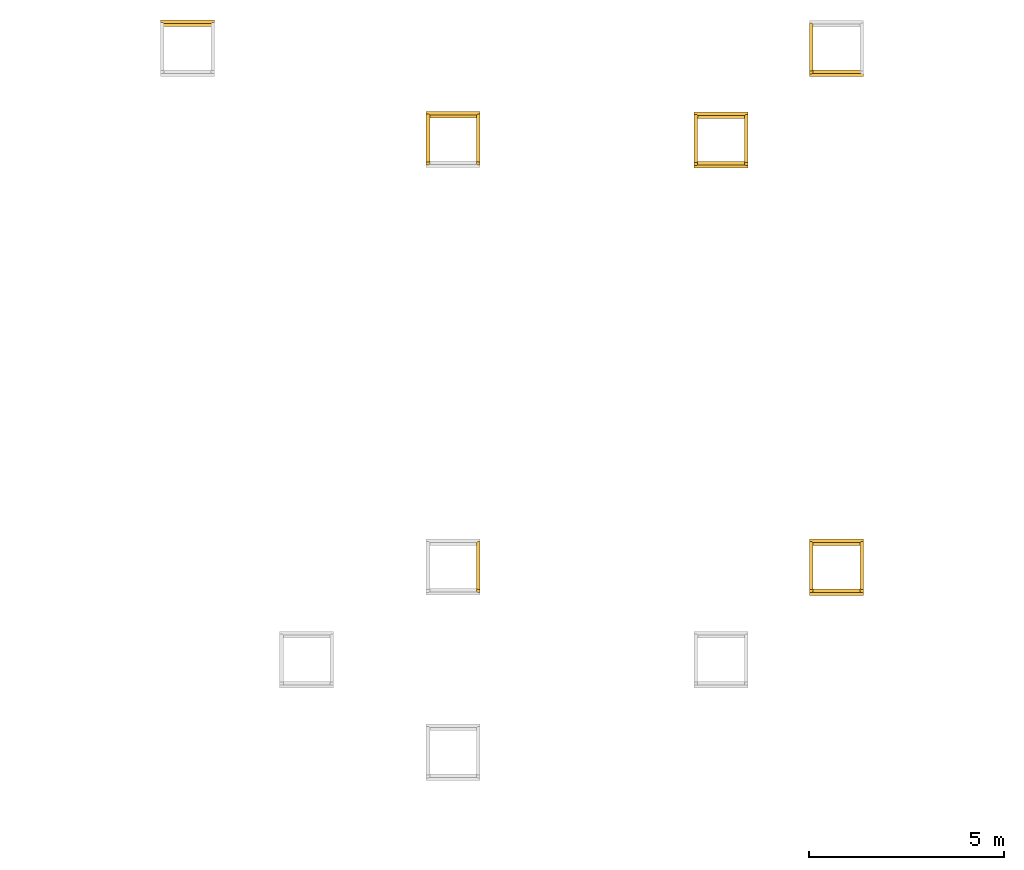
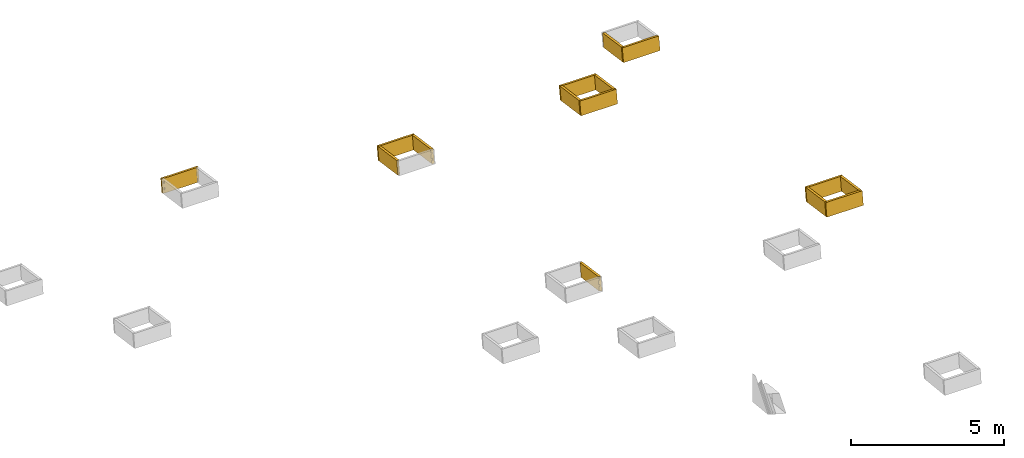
# One storey, part 21 of 23: 15 coverings.
"""IFC2X3 building model written with IfcOpenShell, lengths in millimetres."""

from ifc_helpers import new_model, entity, si_unit, converted_unit, derived_unit, money_unit, direction, frame, origin_with_axes, place, context, subcontext, project, spatial, faceted_brep, material, material_list, type_object, element, save


model = new_model("IFC2X3")

# Units and contexts
model_context = context("Model", 3, precision=0.01, world=origin_with_axes(), true_north=direction((0.0, 1.0)))
body_context = subcontext(model_context, "Body", "Model", "MODEL_VIEW")
ifc_project = project(units=[si_unit("LENGTHUNIT", "METRE", prefix="MILLI"), si_unit("AREAUNIT", "SQUARE_METRE"), si_unit("VOLUMEUNIT", "CUBIC_METRE"), converted_unit("PLANEANGLEUNIT", "DEGREE", entity("IfcPlaneAngleMeasure", 0.0174532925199), si_unit("PLANEANGLEUNIT", "RADIAN"), dimensions=[0, 0, 0, 0, 0, 0, 0]), si_unit("SOLIDANGLEUNIT", "STERADIAN"), money_unit("EUR"), converted_unit("TIMEUNIT", "Year", entity("IfcTimeMeasure", 31556926.0), si_unit("TIMEUNIT", "SECOND"), dimensions=[0, 0, 1, 0, 0, 0, 0]), si_unit("MASSUNIT", "GRAM", prefix="KILO"), si_unit("THERMODYNAMICTEMPERATUREUNIT", "DEGREE_CELSIUS"), si_unit("LUMINOUSINTENSITYUNIT", "LUMEN"), si_unit("ENERGYUNIT", "JOULE", prefix="MEGA"), derived_unit("THERMALCONDUCTANCEUNIT", [(si_unit("POWERUNIT", "WATT"), 1), (si_unit("LENGTHUNIT", "METRE"), -1), (si_unit("THERMODYNAMICTEMPERATUREUNIT", "KELVIN"), -1)]), derived_unit("SPECIFICHEATCAPACITYUNIT", [(si_unit("ENERGYUNIT", "JOULE"), 1), (si_unit("MASSUNIT", "GRAM", prefix="KILO"), -1), (si_unit("THERMODYNAMICTEMPERATUREUNIT", "KELVIN"), -1)]), derived_unit("MASSDENSITYUNIT", [(si_unit("MASSUNIT", "GRAM", prefix="KILO"), 1), (si_unit("VOLUMEUNIT", "CUBIC_METRE"), -1)])], contexts=[model_context])

# Site, building, storey
site_placement = place(None, origin_with_axes())
site = spatial("IfcSite", under=ifc_project, at=site_placement, Name="L.Koidula tn 11b", CompositionType="ELEMENT")
building_placement = place(site_placement, origin_with_axes())
building = spatial("IfcBuilding", under=site, at=building_placement, Name="Rakvere Riigigümnaasium", CompositionType="ELEMENT")
storey_placement = place(building_placement, frame((0.0, 0.0, 7440.0), z_axis=(0.0, 0.0, 1.0), x_axis=(1.0, 0.0, 0.0)))
storey = spatial("IfcBuildingStorey", under=building, at=storey_placement, Name="3.korrus +7,44", CompositionType="ELEMENT", Elevation=7440.0)

# Coverings
ifc_material_1 = material(Name="mineraalvill+karkass")
ifc_material_2 = material(Name="SKR-02_Kipsplaat")
ifc_material_list_1 = material_list([ifc_material_1, ifc_material_2, ifc_material_2])
covering_type = type_object("IfcCoveringType", Name="SA-2xkips 91", PredefinedType="NOTDEFINED")
covering_1_placement = place(storey_placement, frame((34754.7805384, 55277.5534586, -1647.43946758), z_axis=(0.0, 0.0, 1.0), x_axis=(-0.000143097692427, -0.999999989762, 0.0)))
element("IfcCovering", 1, at=covering_1_placement, inside=storey, type_object=covering_type, material=ifc_material_list_1, Name="Ava-pinnakate", PredefinedType="NOTDEFINED", context=body_context, shape_type="Brep", body=[
    faceted_brep([(1204.27400504, 91.0, 305.031960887), (-32.7913839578, 91.0, 128.971485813), (-110.013596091, 91.0, 671.563023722), (1127.05179291, 91.0, 847.623498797), (-32.7819395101, 25.000000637, 128.971485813), (1204.28344949, 25.0000004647, 305.031960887), (-110.004151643, 25.0000004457, 671.563023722), (1127.06123735, 25.0000000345, 847.623498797)], [[[0, 1, 2, 3]], [[4, 1, 0, 5]], [[1, 4, 6, 2]], [[7, 3, 2, 6]], [[5, 0, 3, 7]], [[4, 5, 7, 6]]]),
    faceted_brep([(1191.90815364, 25.0000004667, 303.270695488), (-20.406643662, 25.0000006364, 130.732751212), (-97.6288557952, 25.0000004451, 673.324289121), (1114.68594151, 25.0000000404, 845.862233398), (-20.4048549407, 12.5, 130.732751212), (1191.90994236, 12.5, 303.270695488), (-97.6270670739, 12.5, 673.324289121), (1114.68773023, 12.5, 845.862233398)], [[[0, 1, 2, 3]], [[4, 1, 0, 5]], [[1, 4, 6, 2]], [[7, 3, 2, 6]], [[5, 0, 3, 7]], [[4, 5, 7, 6]]]),
    faceted_brep([(1179.5361547, 12.5, 301.509644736), (-8.02796170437, 12.5, 132.494243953), (-85.2516732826, 12.5, 675.08556846), (1102.31247907, 12.5, 844.100974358), (-8.02777037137, 0.0, 132.494016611), (1179.53643523, 0.0, 301.509430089), (-85.2499825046, 0.0, 675.085554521), (1102.3142231, 0.0, 844.100967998)], [[[0, 1, 2, 3]], [[4, 1, 0, 5]], [[1, 4, 6, 2]], [[7, 3, 2, 6]], [[5, 0, 3, 7]], [[4, 5, 7, 6]]]),
])
ifc_material_list_2 = material_list([ifc_material_2, ifc_material_2, ifc_material_1])
covering_2_placement = place(storey_placement, frame((44599.9999078, 55276.54552, -1571.2099855), z_axis=(0.0, 0.0, 1.0), x_axis=(-1.0, 0.0, 0.0)))
element("IfcCovering", 2, at=covering_2_placement, inside=storey, type_object=covering_type, material=ifc_material_list_2, Name="Ava-pinnakate", PredefinedType="NOTDEFINED", context=body_context, shape_type="Brep", body=[
    faceted_brep([(-12.5011489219, -8.02803970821, 56.4079470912), (-12.5029197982, -20.4033354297, 54.646681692), (-12.5139701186, -97.6255467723, 597.238219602), (-12.5121992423, -85.2502510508, 598.999485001), (1212.49706641, -20.4033354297, 54.646681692), (1212.49885411, -8.02803970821, 56.4079470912), (1212.48591112, -97.6255467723, 597.238219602), (1212.48769882, -85.2502510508, 598.999485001)], [[[0, 1, 2, 3]], [[4, 1, 0, 5]], [[1, 4, 6, 2]], [[7, 3, 2, 6]], [[5, 0, 3, 7]], [[4, 5, 7, 6]]]),
    faceted_brep([(-25.0029199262, -20.4033354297, 54.646681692), (-25.0046908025, -32.7786311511, 52.8854162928), (-25.0157411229, -110.000842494, 595.476954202), (-25.0139702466, -97.6255467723, 597.238219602), (1224.99527884, -32.7786311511, 52.8854162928), (1224.99706654, -20.4033354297, 54.646681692), (1224.98412355, -110.000842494, 595.476954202), (1224.98591125, -97.6255467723, 597.238219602)], [[[0, 1, 2, 3]], [[4, 1, 0, 5]], [[1, 4, 6, 2]], [[7, 3, 2, 6]], [[5, 0, 3, 7]], [[4, 5, 7, 6]]]),
    faceted_brep([(-91.0046914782, -32.7786311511, 52.8854162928), (-91.014041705, -98.1201925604, 43.5859349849), (-91.0250920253, -175.342403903, 586.177472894), (-91.0157417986, -110.000842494, 595.476954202), (1290.98584048, -98.1201925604, 43.5859349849), (1290.99527953, -32.7786311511, 52.8854162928), (1290.97468518, -175.342403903, 586.177472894), (1290.98412424, -110.000842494, 595.476954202)], [[[0, 1, 2, 3]], [[4, 1, 0, 5]], [[1, 4, 6, 2]], [[7, 3, 2, 6]], [[5, 0, 3, 7]], [[4, 5, 7, 6]]]),
])
covering_3_placement = place(storey_placement, frame((43399.827634, 54084.0804864, -1436.62966957), z_axis=(0.0, 0.0, 1.0), x_axis=(1.0, 0.0, 0.0)))
element("IfcCovering", 3, at=covering_3_placement, inside=storey, type_object=covering_type, material=ifc_material_list_2, Name="Ava-pinnakate", PredefinedType="NOTDEFINED", context=body_context, shape_type="Brep", body=[
    faceted_brep([(1212.50171409, 0.553584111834, 92.6043100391), (1212.50348497, 12.9288796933, 90.8430446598), (1212.51453529, 90.1510902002, 633.434582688), (1212.51320544, 80.8578090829, 634.757212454), (1212.51275548, 77.713368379, 634.757212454), (-12.4981324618, 12.9288796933, 90.8430446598), (-12.4999201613, 0.553584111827, 92.6043100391), (-12.4869771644, 90.1510902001, 633.434582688), (1200.00163475, 80.8578090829, 634.757212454), (-12.488319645, 80.8578090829, 634.757212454), (0.0, 80.8578090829, 634.757212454), (0.0, 77.7757954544, 635.195847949), (1200.00163475, 77.7757954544, 635.195847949), (1200.00163475, 77.7133683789, 634.757212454), (0.0, 77.7133683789, 634.757212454), (-12.4887738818, 77.7133683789, 634.757212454)], [[[0, 1, 2, 3, 4]], [[5, 1, 0, 6]], [[1, 5, 7, 2]], [[8, 3, 2, 7, 9, 10, 11, 12]], [[4, 3, 8, 13]], [[6, 0, 4, 13, 12, 11, 14, 15]], [[5, 6, 15, 9, 7]], [[14, 10, 9, 15]], [[14, 11, 10]], [[13, 8, 12]]]),
    faceted_brep([(1224.9999438, -11.8217116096, 94.3655754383), (1225.00171468, 0.553584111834, 92.6043100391), (1225.01275561, 77.713368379, 634.757212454), (1225.01094886, 65.0874074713, 634.757212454), (-24.9999191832, 0.553584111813, 92.6043100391), (-25.0017068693, -11.8217116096, 94.3655754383), (-24.9887740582, 77.7133683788, 634.757212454), (0.0, 77.7133683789, 634.757212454), (0.0, 77.7757954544, 635.195847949), (1200.00163475, 77.7757954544, 635.195847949), (1200.00163475, 77.7133683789, 634.757212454), (1200.00163475, 65.0874074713, 634.757212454), (1200.00163475, 65.4005001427, 636.95711329), (0.0, 65.4005001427, 636.95711329), (0.0, 65.0874074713, 634.757212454), (-24.9905979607, 65.0874074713, 634.757212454)], [[[0, 1, 2, 3]], [[4, 1, 0, 5]], [[1, 4, 6, 7, 8, 9, 10, 2]], [[10, 11, 3, 2]], [[5, 0, 3, 11, 12, 13, 14, 15]], [[4, 5, 15, 6]], [[14, 7, 6, 15]], [[14, 13, 8, 7]], [[13, 12, 9, 8]], [[10, 9, 12, 11]]]),
    faceted_brep([(1290.9905931, -77.1632724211, 103.665056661), (1290.99994333, -11.8217116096, 94.3655754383), (1291.01094885, 65.0874074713, 634.757212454), (1291.00140923, -1.57766238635, 634.757212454), (-91.0017086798, -11.8217116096, 94.3655754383), (-91.0111477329, -77.1632724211, 103.665056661), (-90.9905986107, 65.0874074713, 634.757212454), (0.0, 65.0874074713, 634.757212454), (0.0, 65.4005001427, 636.95711329), (1200.00163475, 65.4005001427, 636.95711329), (1200.00163475, 65.0874074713, 634.757212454), (1200.00163475, -1.57766238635, 634.757212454), (1200.00163475, -0.666873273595, 641.156750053), (0.0, -0.666873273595, 641.156750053), (0.0, -1.57766238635, 634.757212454), (-91.0002288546, -1.57766238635, 634.757212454), (0.0, 35.8923142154, 641.156750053), (1200.00163475, 35.8923142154, 641.156750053)], [[[0, 1, 2, 3]], [[4, 1, 0, 5]], [[1, 4, 6, 7, 8, 9, 10, 2]], [[10, 11, 3, 2]], [[5, 0, 3, 11, 12, 13, 14, 15]], [[4, 5, 15, 6]], [[15, 14, 7, 6]], [[13, 16, 8, 7, 14]], [[16, 17, 9, 8]], [[10, 9, 17, 12, 11]], [[12, 17, 16, 13]]]),
])
covering_4_placement = place(storey_placement, frame((43399.9998941, 55276.54552, -1647.29794805), z_axis=(0.0, 0.0, 1.0), x_axis=(-0.000144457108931, -0.999999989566, 0.0)))
element("IfcCovering", 4, at=covering_4_placement, inside=storey, type_object=covering_type, material=ifc_material_list_2, Name="Ava-pinnakate", PredefinedType="NOTDEFINED", context=body_context, shape_type="Brep", body=[
    faceted_brep([(1179.53616619, -1.01405817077e-06, 301.511323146), (-8.02803979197, -5.50741674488e-08, 132.495909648), (-85.2502519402, -5.84819304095e-07, 675.087447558), (1102.31395487, -5.00435248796e-08, 844.102861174), (-8.02623407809, -12.5, 132.495909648), (1179.5379719, -12.5, 301.511323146), (-85.2484462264, -12.5, 675.087447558), (1102.31576059, -12.5, 844.102861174)], [[[0, 1, 2, 3]], [[4, 1, 0, 5]], [[1, 4, 6, 2]], [[7, 3, 2, 6]], [[5, 0, 3, 7]], [[4, 5, 7, 6]]]),
    faceted_brep([(1191.91326761, -12.5, 303.272588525), (-20.4015299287, -12.5, 130.734644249), (-97.623742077, -12.5, 673.326182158), (1111.6090418, -12.5, 845.425490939), (1114.75348254, -12.5, 845.425490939), (-20.3997242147, -25.0000006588, 130.734644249), (1191.91507332, -24.9999987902, 303.272588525), (-97.621936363, -25.0000006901, 673.326182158), (1111.61084751, -25.0000000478, 845.425490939), (1114.75528825, -25.000000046, 845.425490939)], [[[0, 1, 2, 3, 4]], [[5, 1, 0, 6]], [[1, 5, 7, 2]], [[8, 3, 2, 7]], [[4, 3, 8, 9]], [[6, 0, 4, 9]], [[5, 6, 9, 8, 7]]]),
    faceted_brep([(1204.29036917, -24.9999987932, 305.033853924), (-32.7750200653, -25.0000006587, 128.97337885), (-109.997232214, -25.00000069, 671.564916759), (1111.61084751, -25.0000000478, 845.425490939), (1127.38124929, -25.0000000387, 845.425490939), (-32.7654858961, -91.0, 128.97337885), (1204.29990334, -91.0, 305.033853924), (-109.987698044, -91.0, 671.564916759), (1111.62038168, -91.0, 845.425490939), (1127.39078346, -91.0, 845.425490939)], [[[0, 1, 2, 3, 4]], [[5, 1, 0, 6]], [[1, 5, 7, 2]], [[8, 3, 2, 7]], [[4, 3, 8, 9]], [[6, 0, 4, 9]], [[5, 6, 9, 8, 7]]]),
])
covering_5_placement = place(storey_placement, frame((44599.9999078, 55276.54552, -1647.29794805), z_axis=(0.0, 0.0, 1.0), x_axis=(-0.000143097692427, -0.999999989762, 0.0)))
element("IfcCovering", 5, at=covering_5_placement, inside=storey, type_object=covering_type, material=ifc_material_list_1, Name="Ava-pinnakate", PredefinedType="NOTDEFINED", context=body_context, shape_type="Brep", body=[
    faceted_brep([(1204.27373562, 90.9999993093, 305.033853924), (-32.7916533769, 91.0, 128.97337885), (-110.01386551, 91.0, 671.564916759), (1111.59421398, 90.9999993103, 845.425490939), (1127.36461575, 90.9999993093, 845.425490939), (-32.7822089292, 25.0000006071, 128.97337885), (1204.28318007, 25.0000004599, 305.033853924), (-110.004421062, 25.0000001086, 671.564916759), (1111.60365843, 25.000000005, 845.425490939), (1127.3740602, 25.0000000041, 845.425490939)], [[[0, 1, 2, 3, 4]], [[5, 1, 0, 6]], [[1, 5, 7, 2]], [[8, 3, 2, 7]], [[4, 3, 8, 9]], [[6, 0, 4, 9]], [[5, 6, 9, 8, 7]]]),
    faceted_brep([(1191.90788422, 25.0000004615, 303.272588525), (-20.406913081, 25.0000006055, 130.734644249), (-97.6291252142, 25.000000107, 673.326182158), (1111.60365843, 25.000000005, 845.425490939), (1114.74809916, 25.0000000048, 845.425490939), (-20.4051243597, 12.5, 130.734644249), (1191.90967294, 12.5, 303.272588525), (-97.627336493, 12.5, 673.326182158), (1111.60544715, 12.5, 845.425490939), (1114.74988788, 12.5, 845.425490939)], [[[0, 1, 2, 3, 4]], [[5, 1, 0, 6]], [[1, 5, 7, 2]], [[8, 3, 2, 7]], [[4, 3, 8, 9]], [[6, 0, 4, 9]], [[5, 6, 9, 8, 7]]]),
    faceted_brep([(1179.53587953, 12.5, 301.511536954), (-8.02823112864, 12.5, 132.496136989), (-85.2519427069, 12.5, 675.087461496), (1102.31216959, 12.5, 844.102861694), (-8.0280397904, 0.0, 132.495909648), (1179.53616595, 0.0, 301.511323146), (-85.2502519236, 0.0, 675.087447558), (1102.31395466, 0.0, 844.102861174)], [[[0, 1, 2, 3]], [[4, 1, 0, 5]], [[1, 4, 6, 2]], [[7, 3, 2, 6]], [[5, 0, 3, 7]], [[4, 5, 7, 6]]]),
])
covering_6_placement = place(storey_placement, frame((27933.2690655, 68607.074477, -3445.75202404), z_axis=(0.0, 0.0, 1.0), x_axis=(-1.0, 0.0, 0.0)))
element("IfcCovering", 6, at=covering_6_placement, inside=storey, type_object=covering_type, material=ifc_material_list_2, Name="Ava-pinnakate", PredefinedType="NOTDEFINED", context=body_context, shape_type="Brep", body=[
    faceted_brep([(-12.5006963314, -4.86523160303, 34.184899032), (-12.5024672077, -17.2405273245, 32.4236336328), (-12.513517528, -94.4627386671, 575.015171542), (-12.5117466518, -82.0874429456, 576.776436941), (1212.4975233, -17.2405273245, 32.4236336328), (1212.499311, -4.86523160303, 34.184899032), (1212.48636801, -94.4627386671, 575.015171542), (1212.48815571, -82.0874429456, 576.776436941)], [[[0, 1, 2, 3]], [[4, 1, 0, 5]], [[1, 4, 6, 2]], [[7, 3, 2, 6]], [[5, 0, 3, 7]], [[4, 5, 7, 6]]]),
    faceted_brep([(-25.0024673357, -17.2405273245, 32.4236336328), (-25.0042382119, -29.6158230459, 30.6623682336), (-25.0152885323, -106.838034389, 573.253906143), (-25.013517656, -94.4627386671, 575.015171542), (1224.99573573, -29.6158230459, 30.6623682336), (1224.99752343, -17.2405273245, 32.4236336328), (1224.98458044, -106.838034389, 573.253906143), (1224.98636814, -94.4627386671, 575.015171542)], [[[0, 1, 2, 3]], [[4, 1, 0, 5]], [[1, 4, 6, 2]], [[7, 3, 2, 6]], [[5, 0, 3, 7]], [[4, 5, 7, 6]]]),
    faceted_brep([(-91.0042388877, -29.6158230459, 30.6623682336), (-91.0135891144, -94.9573844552, 21.3628869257), (-91.0246394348, -172.179595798, 563.954424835), (-91.015289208, -106.838034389, 573.253906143), (1290.98629737, -94.9573844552, 21.3628869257), (1290.99573642, -29.6158230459, 30.6623682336), (1290.97514207, -172.179595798, 563.954424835), (1290.98458113, -106.838034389, 573.253906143)], [[[0, 1, 2, 3]], [[4, 1, 0, 5]], [[1, 4, 6, 2]], [[7, 3, 2, 6]], [[5, 0, 3, 7]], [[4, 5, 7, 6]]]),
])
covering_7_placement = place(storey_placement, frame((34754.7805384, 66257.4482221, -3115.53400899), z_axis=(0.0, 0.0, 1.0), x_axis=(-1.0, 0.0, 0.0)))
element("IfcCovering", 7, at=covering_7_placement, inside=storey, type_object=covering_type, material=ifc_material_list_2, Name="Ava-pinnakate", PredefinedType="NOTDEFINED", context=body_context, shape_type="Brep", body=[
    faceted_brep([(-12.5007798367, -5.44878628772, 38.2851679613), (-12.502550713, -17.8240820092, 36.523902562), (-12.5136010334, -95.0462933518, 579.115440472), (-12.5118301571, -82.6709976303, 580.876705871), (1212.497439, -17.8240820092, 36.523902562), (1212.4992267, -5.44878628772, 38.2851679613), (1212.48628371, -95.0462933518, 579.115440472), (1212.48807141, -82.6709976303, 580.876705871)], [[[0, 1, 2, 3]], [[4, 1, 0, 5]], [[1, 4, 6, 2]], [[7, 3, 2, 6]], [[5, 0, 3, 7]], [[4, 5, 7, 6]]]),
    faceted_brep([(-25.002550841, -17.8240820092, 36.523902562), (-25.0043217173, -30.1993777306, 34.7626371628), (-25.0153720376, -107.421589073, 577.354175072), (-25.0136011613, -95.0462933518, 579.115440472), (1224.99565144, -30.1993777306, 34.7626371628), (1224.99743914, -17.8240820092, 36.523902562), (1224.98449614, -107.421589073, 577.354175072), (1224.98628384, -95.0462933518, 579.115440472)], [[[0, 1, 2, 3]], [[4, 1, 0, 5]], [[1, 4, 6, 2]], [[7, 3, 2, 6]], [[5, 0, 3, 7]], [[4, 5, 7, 6]]]),
    faceted_brep([(-91.004322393, -30.1993777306, 34.7626371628), (-91.0136726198, -95.5409391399, 25.4631558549), (-91.0247229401, -172.763150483, 568.054693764), (-91.0153727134, -107.421589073, 577.354175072), (1290.98621307, -95.5409391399, 25.4631558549), (1290.99565212, -30.1993777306, 34.7626371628), (1290.97505777, -172.763150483, 568.054693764), (1290.98449683, -107.421589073, 577.354175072)], [[[0, 1, 2, 3]], [[4, 1, 0, 5]], [[1, 4, 6, 2]], [[7, 3, 2, 6]], [[5, 0, 3, 7]], [[4, 5, 7, 6]]]),
])
covering_8_placement = place(storey_placement, frame((33554.7805247, 66257.4482221, -3191.62197155), z_axis=(0.0, 0.0, 1.0), x_axis=(-0.000144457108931, -0.999999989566, 0.0)))
element("IfcCovering", 8, at=covering_8_placement, inside=storey, type_object=covering_type, material=ifc_material_list_2, Name="Ava-pinnakate", PredefinedType="NOTDEFINED", context=body_context, shape_type="Brep", body=[
    faceted_brep([(1182.11541961, -1.04625996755e-06, 283.388544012), (-5.44878634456, -3.73816533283e-08, 114.373130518), (-82.6709984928, -5.67119684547e-07, 656.964668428), (1104.89320829, -8.22311108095e-08, 825.98008204), (-5.44698063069, -12.5, 114.373130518), (1182.11722532, -12.5, 283.388544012), (-82.669192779, -12.5, 656.964668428), (1104.89501401, -12.5, 825.98008204)], [[[0, 1, 2, 3]], [[4, 1, 0, 5]], [[1, 4, 6, 2]], [[7, 3, 2, 6]], [[5, 0, 3, 7]], [[4, 5, 7, 6]]]),
    faceted_brep([(1194.49252106, -12.5, 285.149809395), (-17.8222764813, -12.5, 112.611865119), (-95.0444886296, -12.5, 655.203403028), (1117.27030891, -12.5, 827.741347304), (-17.8204707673, -25.0000006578, 112.611865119), (1194.49432677, -24.9999987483, 285.149809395), (-95.0426829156, -25.000000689, 655.203403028), (1117.27211462, -25.000000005, 827.741347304)], [[[0, 1, 2, 3]], [[4, 1, 0, 5]], [[1, 4, 6, 2]], [[7, 3, 2, 6]], [[5, 0, 3, 7]], [[4, 5, 7, 6]]]),
    faceted_brep([(1206.86962262, -24.9999987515, 286.911074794), (-30.1957666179, -25.0000006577, 110.85059972), (-107.417978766, -25.0000006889, 653.442137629), (1129.64741047, -25.000000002, 829.502612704), (-30.1862324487, -91.0, 110.85059972), (1206.87915679, -91.0, 286.911074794), (-107.408444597, -91.0, 653.442137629), (1129.65694464, -91.0, 829.502612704)], [[[0, 1, 2, 3]], [[4, 1, 0, 5]], [[1, 4, 6, 2]], [[7, 3, 2, 6]], [[5, 0, 3, 7]], [[4, 5, 7, 6]]]),
])
covering_9_placement = place(storey_placement, frame((34754.7805384, 66257.4482221, -3191.62197155), z_axis=(0.0, 0.0, 1.0), x_axis=(-0.000143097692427, -0.999999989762, 0.0)))
element("IfcCovering", 9, at=covering_9_placement, inside=storey, type_object=covering_type, material=ifc_material_list_1, Name="Ava-pinnakate", PredefinedType="NOTDEFINED", context=body_context, shape_type="Brep", body=[
    faceted_brep([(1206.85298907, 90.9999993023, 286.911074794), (-30.21239993, 91.0, 110.85059972), (-107.434612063, 91.0, 653.442137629), (1129.63077693, 90.9999993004, 829.502612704), (-30.2029554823, 25.0000006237, 110.85059972), (1206.86243352, 25.0000004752, 286.911074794), (-107.425167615, 25.0000001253, 653.442137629), (1129.64022138, 25.0000000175, 829.502612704)], [[[0, 1, 2, 3]], [[4, 1, 0, 5]], [[1, 4, 6, 2]], [[7, 3, 2, 6]], [[5, 0, 3, 7]], [[4, 5, 7, 6]]]),
    faceted_brep([(1194.48713767, 25.0000004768, 285.149809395), (-17.8276596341, 25.0000006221, 112.611865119), (-95.0498717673, 25.0000001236, 655.203403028), (1117.26492553, 25.0000000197, 827.741347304), (-17.8258709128, 12.5, 112.611865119), (1194.48892639, 12.5, 285.149809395), (-95.0480830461, 12.5, 655.203403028), (1117.26671426, 12.5, 827.741347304)], [[[0, 1, 2, 3]], [[4, 1, 0, 5]], [[1, 4, 6, 2]], [[7, 3, 2, 6]], [[5, 0, 3, 7]], [[4, 5, 7, 6]]]),
    faceted_brep([(1182.11518301, 12.5, 283.388764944), (-5.44892759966, 12.5, 114.373364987), (-82.6726391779, 12.5, 656.964689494), (1104.89147306, 12.5, 825.980089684), (-5.44878634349, 0.0, 114.373130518), (1182.11541937, 0.0, 283.388544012), (-82.6709984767, 0.0, 656.964668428), (1104.89320808, 0.0, 825.98008204)], [[[0, 1, 2, 3]], [[4, 1, 0, 5]], [[1, 4, 6, 2]], [[7, 3, 2, 6]], [[5, 0, 3, 7]], [[4, 5, 7, 6]]]),
])
covering_10_placement = place(storey_placement, frame((41636.541672, 66248.5482019, -3113.28840132), z_axis=(0.0, 0.0, 1.0), x_axis=(-1.0, 0.0, 0.0)))
element("IfcCovering", 10, at=covering_10_placement, inside=storey, type_object=covering_type, material=ifc_material_list_2, Name="Ava-pinnakate", PredefinedType="NOTDEFINED", context=body_context, shape_type="Brep", body=[
    faceted_brep([(-12.5007602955, -5.31222750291, 37.3256559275), (-12.5025311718, -17.6875232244, 35.5643905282), (-12.5135814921, -94.909734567, 578.155928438), (-12.5118106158, -82.5344388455, 579.917193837), (1212.49745873, -17.6875232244, 35.5643905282), (1212.49924643, -5.31222750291, 37.3256559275), (1212.48630343, -94.909734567, 578.155928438), (1212.48809113, -82.5344388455, 579.917193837)], [[[0, 1, 2, 3]], [[4, 1, 0, 5]], [[1, 4, 6, 2]], [[7, 3, 2, 6]], [[5, 0, 3, 7]], [[4, 5, 7, 6]]]),
    faceted_brep([(-25.0025312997, -17.6875232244, 35.5643905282), (-25.004302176, -30.0628189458, 33.803125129), (-25.0153524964, -107.285030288, 576.394663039), (-25.0135816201, -94.909734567, 578.155928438), (1224.99567116, -30.0628189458, 33.803125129), (1224.99745886, -17.6875232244, 35.5643905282), (1224.98451587, -107.285030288, 576.394663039), (1224.98630356, -94.909734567, 578.155928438)], [[[0, 1, 2, 3]], [[4, 1, 0, 5]], [[1, 4, 6, 2]], [[7, 3, 2, 6]], [[5, 0, 3, 7]], [[4, 5, 7, 6]]]),
    faceted_brep([(-91.0043028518, -30.0628189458, 33.803125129), (-91.0136530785, -95.4043803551, 24.5036438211), (-91.0247033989, -172.626591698, 567.095181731), (-91.0153531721, -107.285030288, 576.394663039), (1290.9862328, -95.4043803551, 24.5036438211), (1290.99567185, -30.0628189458, 33.803125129), (1290.9750775, -172.626591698, 567.095181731), (1290.98451655, -107.285030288, 576.394663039)], [[[0, 1, 2, 3]], [[4, 1, 0, 5]], [[1, 4, 6, 2]], [[7, 3, 2, 6]], [[5, 0, 3, 7]], [[4, 5, 7, 6]]]),
])
covering_11_placement = place(storey_placement, frame((40436.3693982, 65056.0831683, -2978.7080854), z_axis=(0.0, 0.0, 1.0), x_axis=(1.0, 0.0, 0.0)))
element("IfcCovering", 11, at=covering_11_placement, inside=storey, type_object=covering_type, material=ifc_material_list_2, Name="Ava-pinnakate", PredefinedType="NOTDEFINED", context=body_context, shape_type="Brep", body=[
    faceted_brep([(1212.50132546, -2.16222809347, 73.5220188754), (1212.50309634, 10.2130675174, 71.7607534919), (1212.51414666, 87.4352780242, 614.35229152), (1212.51237578, 75.0599832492, 616.113556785), (-12.4985247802, 10.2130675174, 71.7607534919), (-12.5003124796, -2.16222809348, 73.5220188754), (-12.4873694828, 87.4352780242, 614.35229152), (-12.4891571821, 75.0599832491, 616.113556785)], [[[0, 1, 2, 3]], [[4, 1, 0, 5]], [[1, 4, 6, 2]], [[7, 3, 2, 6]], [[5, 0, 3, 7]], [[4, 5, 7, 6]]]),
    faceted_brep([(1224.99955519, -14.5375238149, 75.2832842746), (1225.00132607, -2.16222809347, 73.5220188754), (1225.01237593, 75.0599832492, 616.113556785), (1225.01060505, 62.6846875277, 617.874822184), (-25.000311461, -2.16222809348, 73.5220188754), (-25.0020991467, -14.5375238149, 75.2832842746), (-24.9891573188, 75.059983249, 616.113556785), (-24.9909450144, 62.6846875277, 617.874822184)], [[[0, 1, 2, 3]], [[4, 1, 0, 5]], [[1, 4, 6, 2]], [[7, 3, 2, 6]], [[5, 0, 3, 7]], [[4, 5, 7, 6]]]),
    faceted_brep([(1290.99020447, -79.8790847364, 84.582765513), (1290.99955469, -14.5375238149, 75.2832842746), (1291.01060501, 62.6846875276, 617.874822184), (1291.00125478, -2.65687026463, 627.174302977), (-91.0021009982, -14.5375238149, 75.2832842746), (-91.0115400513, -79.8790847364, 84.582765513), (-90.9909457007, 62.6846875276, 617.874822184), (-91.0003847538, -2.65687026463, 627.174302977)], [[[0, 1, 2, 3]], [[4, 1, 0, 5]], [[1, 4, 6, 2]], [[7, 3, 2, 6]], [[5, 0, 3, 7]], [[4, 5, 7, 6]]]),
])
covering_12_placement = place(storey_placement, frame((40436.5416583, 66248.5482019, -3189.37636388), z_axis=(0.0, 0.0, 1.0), x_axis=(-0.000144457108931, -0.999999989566, 0.0)))
element("IfcCovering", 12, at=covering_12_placement, inside=storey, type_object=covering_type, material=ifc_material_list_2, Name="Ava-pinnakate", PredefinedType="NOTDEFINED", context=body_context, shape_type="Brep", body=[
    faceted_brep([(1182.25197839, -1.04796527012e-06, 282.429031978), (-5.31222755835, -3.64366314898e-08, 113.413618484), (-82.5344397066, -5.66181768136e-07, 656.005156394), (1105.02976708, -8.39435188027e-08, 825.020570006), (-5.31042184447, -12.5, 113.413618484), (1182.2537841, -12.5, 282.429031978), (-82.5326339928, -12.5, 656.005156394), (1105.03157279, -12.5, 825.020570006)], [[[0, 1, 2, 3]], [[4, 1, 0, 5]], [[1, 4, 6, 2]], [[7, 3, 2, 6]], [[5, 0, 3, 7]], [[4, 5, 7, 6]]]),
    faceted_brep([(1194.62907984, -12.5, 284.190297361), (-17.685717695, -12.5, 111.652353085), (-94.9079298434, -12.5, 654.243890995), (1117.4068677, -12.5, 826.781835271), (-17.6839119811, -25.0000006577, 111.652353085), (1194.63088556, -24.999998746, 284.190297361), (-94.9061241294, -25.000000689, 654.243890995), (1117.40867341, -25.0000000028, 826.781835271)], [[[0, 1, 2, 3]], [[4, 1, 0, 5]], [[1, 4, 6, 2]], [[7, 3, 2, 6]], [[5, 0, 3, 7]], [[4, 5, 7, 6]]]),
    faceted_brep([(1207.00618141, -24.9999987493, 285.95156276), (-30.0592078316, -25.0000006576, 109.891087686), (-107.28141998, -25.0000006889, 652.482625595), (1129.78396926, -24.9999999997, 828.54310067), (-30.0496736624, -91.0, 109.891087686), (1207.01571558, -91.0, 285.95156276), (-107.271885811, -91.0, 652.482625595), (1129.79350343, -91.0, 828.54310067)], [[[0, 1, 2, 3]], [[4, 1, 0, 5]], [[1, 4, 6, 2]], [[7, 3, 2, 6]], [[5, 0, 3, 7]], [[4, 5, 7, 6]]]),
])
covering_13_placement = place(storey_placement, frame((41636.541672, 66248.5482019, -3189.37636388), z_axis=(0.0, 0.0, 1.0), x_axis=(-0.000143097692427, -0.999999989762, 0.0)))
element("IfcCovering", 13, at=covering_13_placement, inside=storey, type_object=covering_type, material=ifc_material_list_1, Name="Ava-pinnakate", PredefinedType="NOTDEFINED", context=body_context, shape_type="Brep", body=[
    faceted_brep([(1206.98954785, 90.9999992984, 285.95156276), (-30.0758411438, 91.0, 109.891087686), (-107.298053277, 91.0, 652.482625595), (1129.76733572, 90.9999992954, 828.54310067), (-30.0663966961, 25.0000006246, 109.891087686), (1206.9989923, 25.000000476, 285.95156276), (-107.288608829, 25.0000001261, 652.482625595), (1129.77678017, 25.0000000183, 828.54310067)], [[[0, 1, 2, 3]], [[4, 1, 0, 5]], [[1, 4, 6, 2]], [[7, 3, 2, 6]], [[5, 0, 3, 7]], [[4, 5, 7, 6]]]),
    faceted_brep([(1194.62369645, 25.0000004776, 284.190297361), (-17.6911008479, 25.000000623, 111.652353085), (-94.9133129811, 25.0000001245, 654.243890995), (1117.40148432, 25.0000000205, 826.781835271), (-17.6893121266, 12.5, 111.652353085), (1194.62548518, 12.5, 284.190297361), (-94.9115242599, 12.5, 654.243890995), (1117.40327304, 12.5, 826.781835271)], [[[0, 1, 2, 3]], [[4, 1, 0, 5]], [[1, 4, 6, 2]], [[7, 3, 2, 6]], [[5, 0, 3, 7]], [[4, 5, 7, 6]]]),
    faceted_brep([(1182.25174444, 12.5, 282.429253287), (-5.31236616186, 12.5, 113.413853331), (-82.5360777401, 12.5, 656.005177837), (1105.0280345, 12.5, 825.020578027), (-5.3122275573, 0.0, 113.413618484), (1182.25197816, 0.0, 282.429031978), (-82.5344396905, 0.0, 656.005156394), (1105.02976686, 0.0, 825.020570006)], [[[0, 1, 2, 3]], [[4, 1, 0, 5]], [[1, 4, 6, 2]], [[7, 3, 2, 6]], [[5, 0, 3, 7]], [[4, 5, 7, 6]]]),
])
covering_14_placement = place(storey_placement, frame((43399.827634, 67405.7807067, -3308.88752104), z_axis=(0.0, 0.0, 1.0), x_axis=(1.0, 0.0, 0.0)))
element("IfcCovering", 14, at=covering_14_placement, inside=storey, type_object=covering_type, material=ifc_material_list_2, Name="Ava-pinnakate", PredefinedType="NOTDEFINED", context=body_context, shape_type="Brep", body=[
    faceted_brep([(1212.50124099, -2.75257963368, 69.37399275), (1212.50301186, 9.62271598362, 67.6127273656), (1212.51406218, 86.8449264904, 610.204265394), (1212.51229131, 74.469631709, 611.96553066), (-12.4986100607, 9.62271598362, 67.6127273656), (-12.5003977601, -2.75257963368, 69.37399275), (-12.4874547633, 86.8449264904, 610.204265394), (-12.4892424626, 74.4696317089, 611.96553066)], [[[0, 1, 2, 3]], [[4, 1, 0, 5]], [[1, 4, 6, 2]], [[7, 3, 2, 6]], [[5, 0, 3, 7]], [[4, 5, 7, 6]]]),
    faceted_brep([(1224.99947072, -15.1278753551, 71.1352581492), (1225.0012416, -2.75257963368, 69.37399275), (1225.01229146, 74.469631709, 611.96553066), (1225.01052058, 62.0943359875, 613.726796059), (-25.0003967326, -2.75257963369, 69.37399275), (-25.0021844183, -15.1278753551, 71.1352581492), (-24.9892425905, 74.4696317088, 611.96553066), (-24.991030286, 62.0943359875, 613.726796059)], [[[0, 1, 2, 3]], [[4, 1, 0, 5]], [[1, 4, 6, 2]], [[7, 3, 2, 6]], [[5, 0, 3, 7]], [[4, 5, 7, 6]]]),
    faceted_brep([(1290.99012, -80.4694363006, 80.4347393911), (1290.99947022, -15.1278753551, 71.1352581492), (1291.01052054, 62.0943359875, 613.726796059), (1291.00117032, -3.24722182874, 623.026276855), (-91.0021862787, -15.1278753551, 71.1352581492), (-91.0116253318, -80.4694363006, 80.4347393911), (-90.9910309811, 62.0943359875, 613.726796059), (-91.0004700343, -3.24722182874, 623.026276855)], [[[0, 1, 2, 3]], [[4, 1, 0, 5]], [[1, 4, 6, 2]], [[7, 3, 2, 6]], [[5, 0, 3, 7]], [[4, 5, 7, 6]]]),
])
covering_15_placement = place(storey_placement, frame((43399.9998941, 68598.2457403, -3519.55579953), z_axis=(0.0, 0.0, 1.0), x_axis=(-0.000144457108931, -0.999999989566, 0.0)))
element("IfcCovering", 15, at=covering_15_placement, inside=storey, type_object=covering_type, material=ifc_material_list_2, Name="Ava-pinnakate", PredefinedType="NOTDEFINED", context=body_context, shape_type="Brep", body=[
    faceted_brep([(1182.84232993, -1.05534070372e-06, 278.281005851), (-4.72187601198, -3.24007487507e-08, 109.265592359), (-81.9440881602, -5.62138779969e-07, 651.857130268), (1105.62011862, -9.13118469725e-08, 820.87254388), (-4.72007029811, -12.5, 109.265592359), (1182.84413564, -12.5, 278.281005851), (-81.9422824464, -12.5, 651.857130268), (1105.62192433, -12.5, 820.87254388)], [[[0, 1, 2, 3]], [[4, 1, 0, 5]], [[1, 4, 6, 2]], [[7, 3, 2, 6]], [[5, 0, 3, 7]], [[4, 5, 7, 6]]]),
    faceted_brep([(1195.21943139, -12.5, 280.042271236), (-17.0953661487, -12.5, 107.50432696), (-94.317578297, -12.5, 650.095864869), (1117.99721924, -12.5, 822.633809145), (-17.0935604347, -25.0000006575, 107.50432696), (1195.2212371, -24.9999987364, 280.042271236), (-94.315772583, -25.0000006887, 650.095864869), (1117.99902496, -24.9999999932, 822.633809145)], [[[0, 1, 2, 3]], [[4, 1, 0, 5]], [[1, 4, 6, 2]], [[7, 3, 2, 6]], [[5, 0, 3, 7]], [[4, 5, 7, 6]]]),
    faceted_brep([(1207.59653295, -24.9999987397, 281.803536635), (-29.4688562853, -25.0000006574, 105.74306156), (-106.691068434, -25.0000006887, 648.33459947), (1130.37432081, -24.9999999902, 824.395074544), (-29.4593221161, -91.0, 105.74306156), (1207.60606712, -91.0, 281.803536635), (-106.681534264, -91.0, 648.33459947), (1130.38385498, -91.0, 824.395074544)], [[[0, 1, 2, 3]], [[4, 1, 0, 5]], [[1, 4, 6, 2]], [[7, 3, 2, 6]], [[5, 0, 3, 7]], [[4, 5, 7, 6]]]),
])

save(model, "model.ifc")
